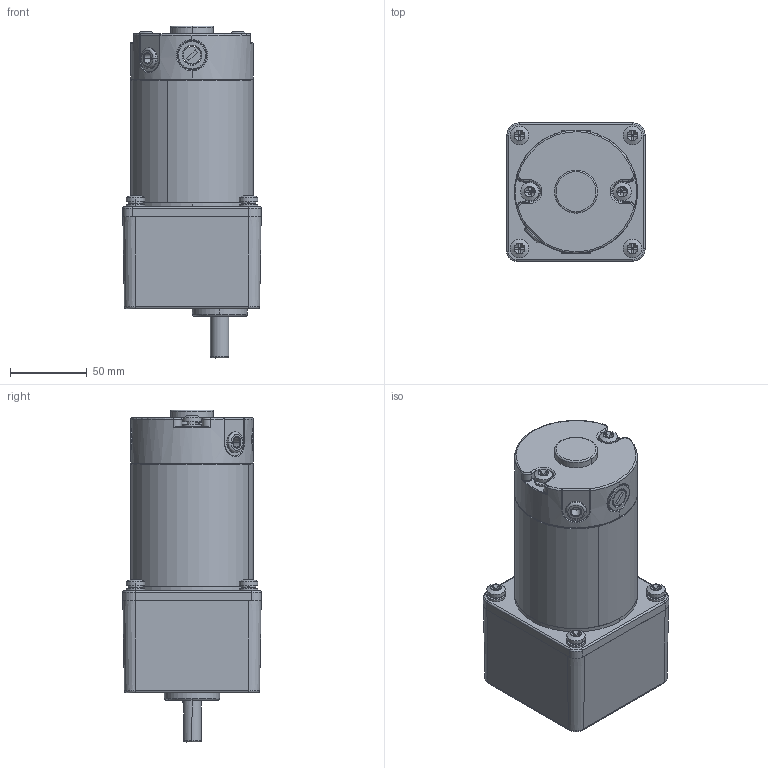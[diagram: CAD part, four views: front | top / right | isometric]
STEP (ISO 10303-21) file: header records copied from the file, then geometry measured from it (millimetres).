
FILE_DESCRIPTION (( 'STEP AP203' ), '1' );
FILE_NAME ('90饜5GU喘謫眊-80儂褲.STEP', '2021-07-12T08:57:57', ( '' ), ( '' ), 'SwSTEP 2.0', 'SolidWorks 2021', '' );
FILE_SCHEMA (( 'CONFIG_CONTROL_DESIGN' ));
Length unit declared in the file: millimetre
Products named in the file (8): 90饜5GU喘謫眊-80儂褲; PENGDIAN_2; TANDIAN_2; LUDING_2; QIGAI_1; HOUGAI-80-1_2; JIKE-99; 90-2
Assembly tree (22 placements, depth 2):
  90饜5GU喘謫眊-80儂褲
    JIKE-99
    QIGAI_1
    TANDIAN_2  x6
    PENGDIAN_2  x6
    LUDING_2  x6
    HOUGAI-80-1_2
    90-2
Bounding box: 90 x 90 x 216 mm (x, y, z)
Volume: 648404.7 mm3; surface area: 139835 mm2
Topology: 26 solids, 26 shells, 701 faces, 1644 edges, 1016 vertices
Faces by surface type: cylinder 230, cone 201, plane 180, torus 56, bspline 34
Entity records: 15989 total; most frequent: CARTESIAN_POINT 5717, DIRECTION 2006, ORIENTED_EDGE 1824, EDGE_CURVE 912, AXIS2_PLACEMENT_3D 829, VERTEX_POINT 571, CIRCLE 442, EDGE_LOOP 435
